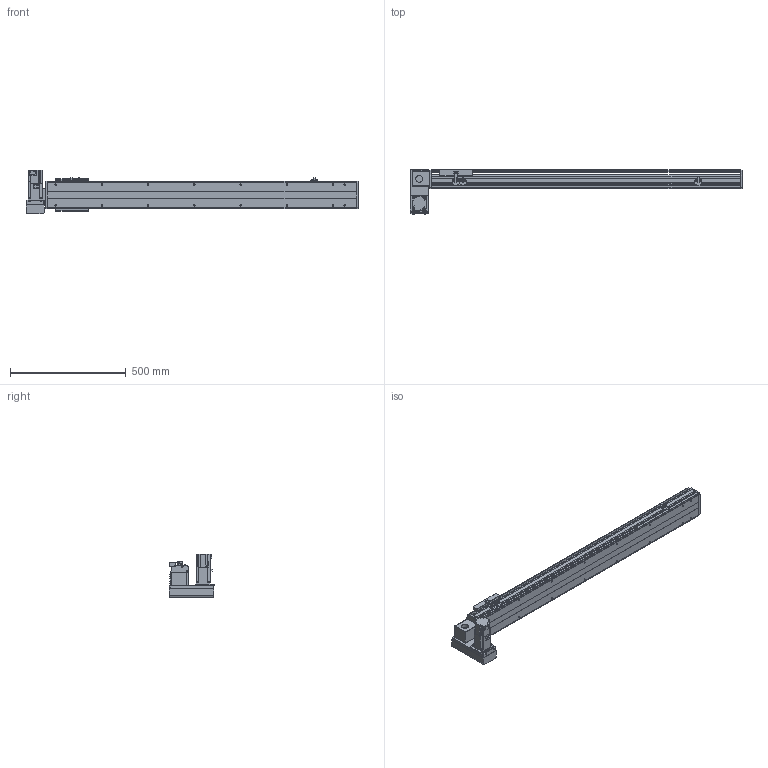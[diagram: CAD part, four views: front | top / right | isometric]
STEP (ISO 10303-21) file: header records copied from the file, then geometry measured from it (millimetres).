
FILE_DESCRIPTION( ( 'STEP AP214' ), '1' );
FILE_NAME( 'x:/temp/worker_27/temp/exporttempdir_6708_46_Dq2Jw/format_0/PBS120-P40-S1050-LD-T40-C1-N(0).stp', '2022-06-06T00:16:31', ( 'License CC BY-ND 4.0' ), ( 'CADENAS' ), ' ', 'PARTsolutions', ' ' );
FILE_SCHEMA( ( 'AUTOMOTIVE_DESIGN { 1 0 10303 214 1 1 1 1 }' ) );
Length unit declared in the file: millimetre
Products named in the file (7): PBS120-P40-S1050-LD-T40-C1-N(0); _PBS120-S1050()_body; _PBS120T-LD_motors; _T40-p1; _PBS120_sliser; _PBS120_plant; _PBS120_sensor
Assembly tree (8 placements, depth 2):
  PBS120-P40-S1050-LD-T40-C1-N(0)
    _PBS120-S1050()_body
    _PBS120T-LD_motors
    _T40-p1
    _PBS120_sliser
    _PBS120_plant
    _PBS120_sensor  x3
Bounding box: 1436 x 196 x 189.7 mm (x, y, z)
Volume: 6123832.4 mm3; surface area: 1199811.6 mm2
Topology: 8 solids, 8 shells, 828 faces, 2156 edges, 1387 vertices
Faces by surface type: plane 549, cylinder 229, cone 48, torus 2
Full cylindrical faces by diameter (mm): 2.459 x6, 3.242 x4, 4 x2, 4.134 x4, 4.5 x10, 4.917 x20, 5.5 x11, 6 x2, 6.6 x1, 7 x2, 8.5 x4, 9 x4, 12 x1, 14 x1, 30 x2, 40 x1, 50 x2
Entity records: 27324 total; most frequent: DIRECTION 3740, CARTESIAN_POINT 3677, ORIENTED_EDGE 3502, EDGE_CURVE 1751, AXIS2_PLACEMENT_3D 1256, LINE 1228, VECTOR 1228, VERTEX_POINT 1193
